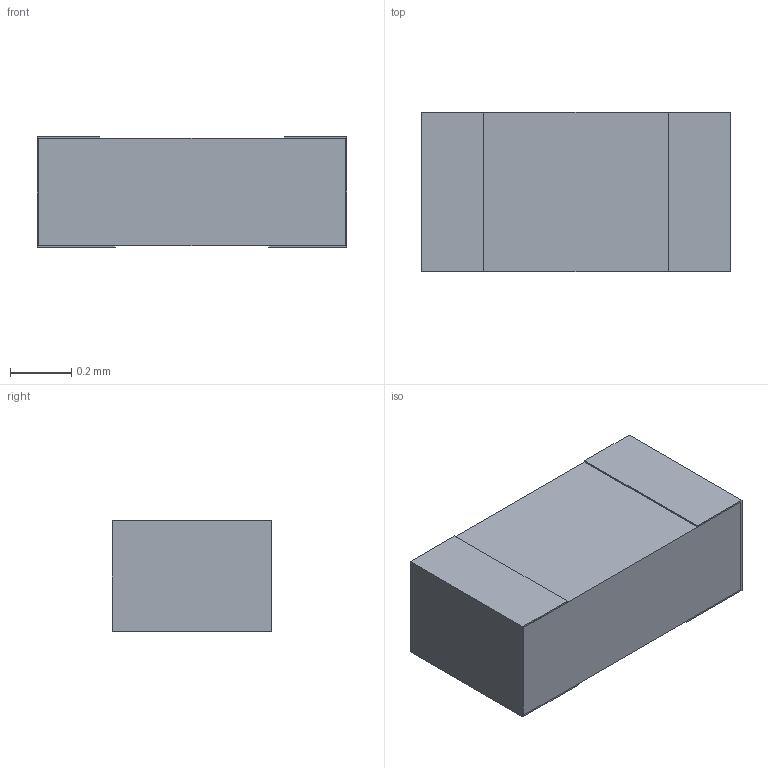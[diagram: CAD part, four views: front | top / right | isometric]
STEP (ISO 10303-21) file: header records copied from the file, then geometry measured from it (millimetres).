
FILE_DESCRIPTION(/* description */ (''),/* implementation_level */ '2;1');
FILE_NAME(/* name */ 'S2F0402.stp',/* time_stamp */ '2025-05-05T10:42:53+02:00',/* author */ ('jrancurel'),/* organization */ ('unknown'),/* preprocessor_version */ 'ST-DEVELOPER v19.2',/* originating_system */ 'Autodesk Inventor 2023',/* authorisation */ '');
FILE_SCHEMA (('AUTOMOTIVE_DESIGN { 1 0 10303 214 3 1 1 }'));
Length unit declared in the file: millimetre
Products named in the file (1): S2F0402
Bounding box: 1.01 x 0.52 x 0.36 mm (x, y, z)
Volume: 0.2 mm3; surface area: 3.8 mm2
Topology: 3 solids, 3 shells, 26 faces, 60 edges, 40 vertices
Faces by surface type: plane 26
Entity records: 783 total; most frequent: CARTESIAN_POINT 127, ORIENTED_EDGE 120, DIRECTION 114, LINE 60, VECTOR 60, EDGE_CURVE 60, VERTEX_POINT 40, AXIS2_PLACEMENT_3D 27
